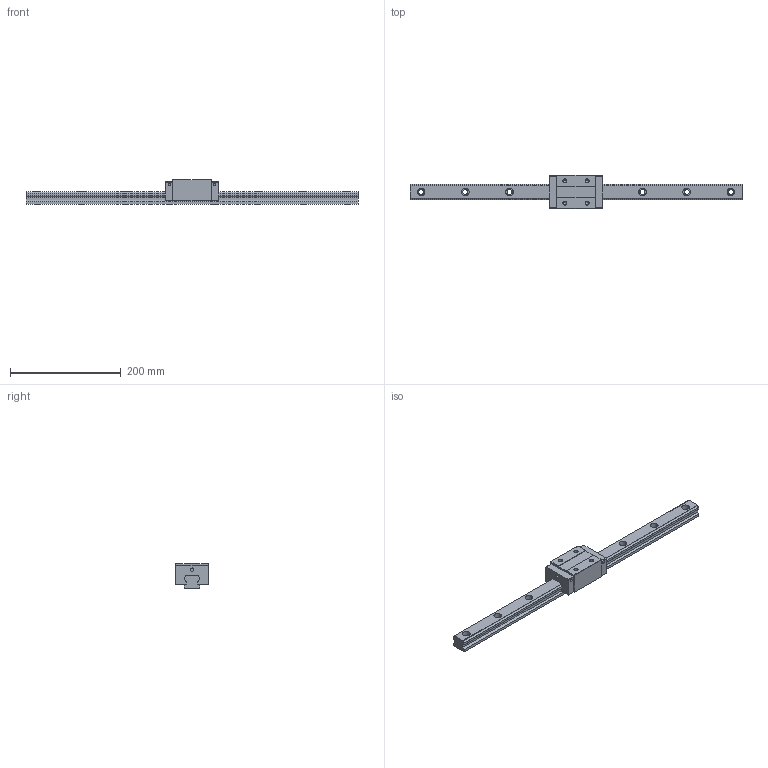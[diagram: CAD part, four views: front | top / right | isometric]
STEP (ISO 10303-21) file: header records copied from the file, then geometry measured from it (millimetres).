
FILE_DESCRIPTION (( 'STEP AP203' ), '1' );
FILE_NAME ('TRH30VN-XN.STEP', '2024-05-17T06:51:02', ( '' ), ( '' ), 'SwSTEP 2.0', 'SolidWorks 2022', '' );
FILE_SCHEMA (( 'CONFIG_CONTROL_DESIGN' ));
Length unit declared in the file: millimetre
Products named in the file (1): TRH30VN-XN
Bounding box: 600 x 60 x 45 mm (x, y, z)
Volume: 494337.8 mm3; surface area: 97298.4 mm2
Topology: 2 solids, 2 shells, 186 faces, 488 edges, 316 vertices
Faces by surface type: cylinder 88, plane 82, cone 16
Entity records: 5819 total; most frequent: DIRECTION 1038, CARTESIAN_POINT 983, ORIENTED_EDGE 960, EDGE_CURVE 480, AXIS2_PLACEMENT_3D 371, VERTEX_POINT 316, LINE 296, VECTOR 296
